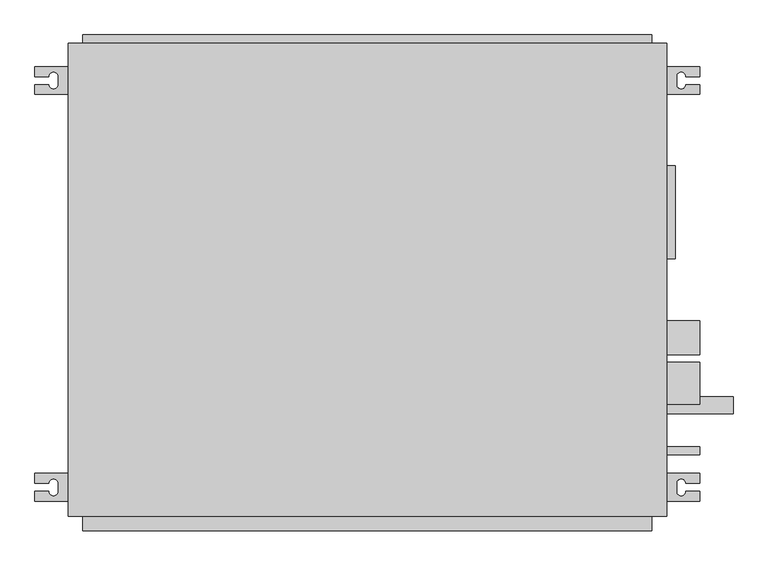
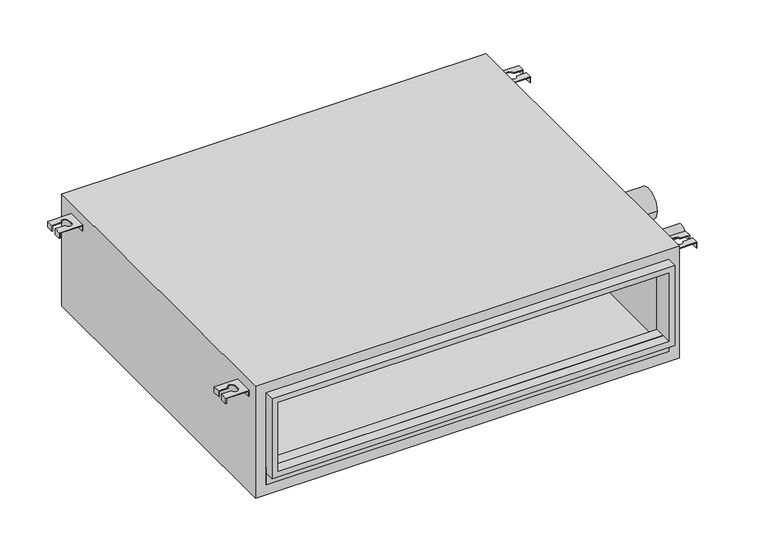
"""IFC4 building model written with IfcOpenShell, lengths in millimetres: proxy geometry, PEFY-P-NMAU-E_Medium_Static_Ducted : PEFY-P18NMAU-E."""

from ifc_helpers import new_model, si_unit, point, frame, frame_2d, origin, place, context, project, spatial, polyline, circle_curve, trimmed, segment, composite_curve, outline, extrude, source, transform, mapped, element, save
from ifc_brep_helpers import plane_surface, revolved_surface, advanced_brep


def mechanical_equipment_7e022f85(model_context):
    return source(origin(), model_context, "Body", "SolidModel", [
        advanced_brep(
        [(-510.074743, -231.05, 249.2375), (-510.074743, -246.05, 249.2375), (-489.068493, -246.05, 249.2375), (-475.068493, -246.05, 249.2375), (-475.068493, -258.05, 249.2375), (-489.068493, -258.05, 249.2375), (-510.074743, -258.05, 249.2375), (-510.074743, -273.05, 249.2375), (-460.068493, -273.05, 249.2375), (-460.068493, -231.05, 249.2375), (-510.074743, -231.05, 236.4972162), (-508.486743, -231.05, 236.4972162), (-508.486743, -246.05, 236.4972162), (-510.074743, -246.05, 236.4972162), (-508.486743, -273.05, 236.4972162), (-510.074743, -273.05, 236.4972162), (-510.074743, -258.05, 236.4972162), (-508.486743, -258.05, 236.4972162), (-460.068493, -231.05, 236.4972162), (-460.068493, -273.05, 236.4972162), (-461.656493, -273.05, 236.4972162), (-461.656493, -231.05, 236.4972162), (-508.486743, -246.05, 247.65), (-489.068493, -246.05, 247.65), (-508.486743, -231.05, 247.65), (-461.656493, -231.05, 247.65), (-508.486743, -258.05, 247.65), (-508.486743, -273.05, 247.65), (-489.068493, -258.05, 247.65), (-461.656493, -273.05, 247.65), (-475.068493, -258.05, 247.65), (-475.068493, -246.05, 247.65)],
        [
            (0, 1),
            (1, 2),
            (2, 3, circle_curve(frame((-482.068493, -246.05, 249.2375), z_axis=(0.0, 0.0, -1.0), x_axis=(1.0, 0.0, 0.0)), 7.0)),
            (3, 4),
            (4, 5, circle_curve(frame((-482.068493, -258.05, 249.2375), z_axis=(0.0, 0.0, -1.0), x_axis=(1.0, 0.0, 0.0)), 7.0)),
            (5, 6),
            (6, 7),
            (7, 8),
            (8, 9),
            (9, 0),
            (10, 11),
            (11, 12),
            (12, 13),
            (13, 10),
            (14, 15),
            (15, 16),
            (16, 17),
            (17, 14),
            (18, 19),
            (19, 20),
            (20, 21),
            (21, 18),
            (13, 1),
            (0, 10),
            (12, 22),
            (22, 23),
            (23, 2),
            (11, 24),
            (24, 22),
            (9, 18),
            (21, 25),
            (25, 24),
            (17, 26),
            (26, 27),
            (27, 14),
            (5, 28),
            (28, 26),
            (16, 6),
            (15, 7),
            (27, 29),
            (29, 20),
            (19, 8),
            (29, 25),
            (30, 31),
            (31, 23, circle_curve(frame((-482.068493, -246.05, 247.65), z_axis=(0.0, 0.0, 1.0), x_axis=(1.0, 0.0, 0.0)), 7.0)),
            (28, 30, circle_curve(frame((-482.068493, -258.05, 247.65), z_axis=(0.0, 0.0, 1.0), x_axis=(1.0, 0.0, 0.0)), 7.0)),
            (4, 30),
            (31, 3),
        ],
        [
            plane_surface(frame((-510.074743, -231.05, 249.2375), z_axis=(0.0, 0.0, 1.0), x_axis=(0.0, -1.0, 0.0))),
            plane_surface(frame((-510.074743, -231.05, 236.4972162), z_axis=(0.0, 0.0, -1.0), x_axis=(0.0, 1.0, 0.0))),
            plane_surface(frame((-510.074743, -231.05, 249.2375), z_axis=(-1.0, 0.0, 0.0), x_axis=(0.0, 0.0, -1.0))),
            plane_surface(frame((-510.074743, -246.05, 249.2375), z_axis=(0.0, -1.0, 0.0), x_axis=(0.0, 0.0, -1.0))),
            plane_surface(frame((-508.486743, -246.05, 249.2375), z_axis=(1.0, 0.0, 0.0), x_axis=(0.0, 0.0, -1.0))),
            plane_surface(frame((-508.486743, -231.05, 249.2375), z_axis=(0.0, 1.0, 0.0), x_axis=(0.0, 0.0, -1.0))),
            plane_surface(frame((-508.486743, -273.05, 249.2375), z_axis=(1.0, 0.0, 0.0), x_axis=(0.0, 0.0, -1.0))),
            plane_surface(frame((-508.486743, -258.05, 249.2375), z_axis=(0.0, 1.0, 0.0), x_axis=(0.0, 0.0, -1.0))),
            plane_surface(frame((-510.074743, -258.05, 249.2375), z_axis=(-1.0, 0.0, 0.0), x_axis=(0.0, 0.0, -1.0))),
            plane_surface(frame((-510.074743, -273.05, 249.2375), z_axis=(0.0, -1.0, 0.0), x_axis=(0.0, 0.0, -1.0))),
            plane_surface(frame((-461.656493, -231.05, 249.2375), z_axis=(-1.0, 0.0, 0.0), x_axis=(0.0, 0.0, -1.0))),
            plane_surface(frame((-460.068493, -273.05, 249.2375), z_axis=(1.0, 0.0, 0.0), x_axis=(0.0, 0.0, -1.0))),
            plane_surface(frame((-475.068493, -258.05, 247.65), z_axis=(0.0, 0.0, -1.0), x_axis=(0.0, 1.0, 0.0))),
            revolved_surface(polyline([(-475.068493, -258.05, 247.65), (-475.068493, -258.05, 249.2375)]), (-482.068493, -258.05, 247.65), (0.0, 0.0, -1.0)),
            revolved_surface(polyline([(-475.068493, -246.05, 247.65), (-475.068493, -246.05, 249.2375)]), (-482.068493, -246.05, 247.65), (0.0, 0.0, -1.0)),
            plane_surface(frame((-475.068493, -246.05, 249.2375), z_axis=(-1.0, 0.0, 0.0), x_axis=(0.0, 0.0, -1.0))),
        ],
        [
            (0, [[1, 2, 3, 4, 5, 6, 7, 8, 9, 10]]),
            (1, [[11, 12, 13, 14]]),
            (1, [[15, 16, 17, 18]]),
            (1, [[19, 20, 21, 22]]),
            (2, [[23, -1, 24, -14]]),
            (3, [[-2, -23, -13, 25, 26, 27]]),
            (4, [[-12, 28, 29, -25]]),
            (5, [[-10, 30, -22, 31, 32, -28, -11, -24]]),
            (6, [[-18, 33, 34, 35]]),
            (7, [[-6, 36, 37, -33, -17, 38]]),
            (8, [[39, -7, -38, -16]]),
            (9, [[-8, -39, -15, -35, 40, 41, -20, 42]]),
            (10, [[-21, -41, 43, -31]]),
            (11, [[-30, -9, -42, -19]]),
            (12, [[44, 45, -26, -29, -32, -43, -40, -34, -37, 46]]),
            (13, [[-5, 47, -46, -36]]),
            (14, [[-3, -27, -45, 48]]),
            (15, [[-4, -48, -44, -47]]),
        ],
    ),
        advanced_brep(
        [(490.050257, -231.05, 249.2375), (440.044007, -231.05, 249.2375), (440.044007, -273.05, 249.2375), (490.050257, -273.05, 249.2375), (490.050257, -258.05, 249.2375), (469.044007, -258.05, 249.2375), (455.044007, -258.05, 249.2375), (455.044007, -246.05, 249.2375), (469.044007, -246.05, 249.2375), (490.050257, -246.05, 249.2375), (490.050257, -231.05, 236.4972162), (490.050257, -246.05, 236.4972162), (488.462257, -246.05, 236.4972162), (488.462257, -231.05, 236.4972162), (488.462257, -273.05, 236.4972162), (488.462257, -258.05, 236.4972162), (490.050257, -258.05, 236.4972162), (490.050257, -273.05, 236.4972162), (440.044007, -231.05, 236.4972162), (441.632007, -231.05, 236.4972162), (441.632007, -273.05, 236.4972162), (440.044007, -273.05, 236.4972162), (469.044007, -246.05, 247.65), (488.462257, -246.05, 247.65), (488.462257, -231.05, 247.65), (441.632007, -231.05, 247.65), (488.462257, -273.05, 247.65), (488.462257, -258.05, 247.65), (469.044007, -258.05, 247.65), (441.632007, -273.05, 247.65), (455.044007, -258.05, 247.65), (455.044007, -246.05, 247.65)],
        [
            (0, 1),
            (1, 2),
            (2, 3),
            (3, 4),
            (4, 5),
            (5, 6, circle_curve(frame((462.044007, -258.05, 249.2375), z_axis=(0.0, 0.0, -1.0), x_axis=(-1.0, 0.0, 0.0)), 7.0)),
            (6, 7),
            (7, 8, circle_curve(frame((462.044007, -246.05, 249.2375), z_axis=(0.0, 0.0, -1.0), x_axis=(-1.0, 0.0, 0.0)), 7.0)),
            (8, 9),
            (9, 0),
            (10, 11),
            (11, 12),
            (12, 13),
            (13, 10),
            (14, 15),
            (15, 16),
            (16, 17),
            (17, 14),
            (18, 19),
            (19, 20),
            (20, 21),
            (21, 18),
            (10, 0),
            (9, 11),
            (8, 22),
            (22, 23),
            (23, 12),
            (23, 24),
            (24, 13),
            (24, 25),
            (25, 19),
            (18, 1),
            (14, 26),
            (26, 27),
            (27, 15),
            (4, 16),
            (27, 28),
            (28, 5),
            (3, 17),
            (2, 21),
            (20, 29),
            (29, 26),
            (25, 29),
            (30, 28, circle_curve(frame((462.044007, -258.05, 247.65), z_axis=(0.0, 0.0, 1.0), x_axis=(-1.0, 0.0, 0.0)), 7.0)),
            (22, 31, circle_curve(frame((462.044007, -246.05, 247.65), z_axis=(0.0, 0.0, 1.0), x_axis=(-1.0, 0.0, 0.0)), 7.0)),
            (31, 30),
            (30, 6),
            (7, 31),
        ],
        [
            plane_surface(frame((490.050257, -231.05, 249.2375), z_axis=(0.0, 0.0, 1.0), x_axis=(0.0, -1.0, 0.0))),
            plane_surface(frame((490.050257, -231.05, 236.4972162), z_axis=(0.0, 0.0, -1.0), x_axis=(0.0, 1.0, 0.0))),
            plane_surface(frame((490.050257, -231.05, 249.2375), z_axis=(1.0, 0.0, 0.0), x_axis=(0.0, 0.0, -1.0))),
            plane_surface(frame((490.050257, -246.05, 249.2375), z_axis=(0.0, -1.0, 0.0), x_axis=(0.0, 0.0, -1.0))),
            plane_surface(frame((488.462257, -246.05, 249.2375), z_axis=(-1.0, 0.0, 0.0), x_axis=(0.0, 0.0, -1.0))),
            plane_surface(frame((488.462257, -231.05, 249.2375), z_axis=(0.0, 1.0, 0.0), x_axis=(0.0, 0.0, -1.0))),
            plane_surface(frame((488.462257, -273.05, 249.2375), z_axis=(-1.0, 0.0, 0.0), x_axis=(0.0, 0.0, -1.0))),
            plane_surface(frame((488.462257, -258.05, 249.2375), z_axis=(0.0, 1.0, 0.0), x_axis=(0.0, 0.0, -1.0))),
            plane_surface(frame((490.050257, -258.05, 249.2375), z_axis=(1.0, 0.0, 0.0), x_axis=(0.0, 0.0, -1.0))),
            plane_surface(frame((490.050257, -273.05, 249.2375), z_axis=(0.0, -1.0, 0.0), x_axis=(0.0, 0.0, -1.0))),
            plane_surface(frame((441.632007, -231.05, 249.2375), z_axis=(1.0, 0.0, 0.0), x_axis=(0.0, 0.0, -1.0))),
            plane_surface(frame((440.044007, -273.05, 249.2375), z_axis=(-1.0, 0.0, 0.0), x_axis=(0.0, 0.0, -1.0))),
            plane_surface(frame((455.044007, -258.05, 247.65), z_axis=(0.0, 0.0, -1.0), x_axis=(0.0, 1.0, 0.0))),
            revolved_surface(polyline([(455.044007, -258.05, 247.65), (455.044007, -258.05, 249.2375)]), (462.044007, -258.05, 247.65), (0.0, 0.0, -1.0)),
            revolved_surface(polyline([(455.044007, -246.05, 247.65), (455.044007, -246.05, 249.2375)]), (462.044007, -246.05, 247.65), (0.0, 0.0, -1.0)),
            plane_surface(frame((455.044007, -246.05, 249.2375), z_axis=(1.0, 0.0, 0.0), x_axis=(0.0, 0.0, -1.0))),
        ],
        [
            (0, [[1, 2, 3, 4, 5, 6, 7, 8, 9, 10]]),
            (1, [[11, 12, 13, 14]]),
            (1, [[15, 16, 17, 18]]),
            (1, [[19, 20, 21, 22]]),
            (2, [[-11, 23, -10, 24]]),
            (3, [[25, 26, 27, -12, -24, -9]]),
            (4, [[-27, 28, 29, -13]]),
            (5, [[-23, -14, -29, 30, 31, -19, 32, -1]]),
            (6, [[33, 34, 35, -15]]),
            (7, [[36, -16, -35, 37, 38, -5]]),
            (8, [[-17, -36, -4, 39]]),
            (9, [[40, -21, 41, 42, -33, -18, -39, -3]]),
            (10, [[-31, 43, -41, -20]]),
            (11, [[-22, -40, -2, -32]]),
            (12, [[44, -37, -34, -42, -43, -30, -28, -26, 45, 46]]),
            (13, [[-38, -44, 47, -6]]),
            (14, [[48, -45, -25, -8]]),
            (15, [[-47, -46, -48, -7]]),
        ],
    ),
        advanced_brep(
        [(-510.074743, 339.0, 249.2375), (-460.068493, 339.0, 249.2375), (-460.068493, 381.0, 249.2375), (-510.074743, 381.0, 249.2375), (-510.074743, 366.0, 249.2375), (-489.068493, 366.0, 249.2375), (-475.068493, 366.0, 249.2375), (-475.068493, 354.0, 249.2375), (-489.068493, 354.0, 249.2375), (-510.074743, 354.0, 249.2375), (-510.074743, 339.0, 236.4972162), (-510.074743, 354.0, 236.4972162), (-508.486743, 354.0, 236.4972162), (-508.486743, 339.0, 236.4972162), (-508.486743, 381.0, 236.4972162), (-508.486743, 366.0, 236.4972162), (-510.074743, 366.0, 236.4972162), (-510.074743, 381.0, 236.4972162), (-460.068493, 339.0, 236.4972162), (-461.656493, 339.0, 236.4972162), (-461.656493, 381.0, 236.4972162), (-460.068493, 381.0, 236.4972162), (-489.068493, 354.0, 247.65), (-508.486743, 354.0, 247.65), (-508.486743, 339.0, 247.65), (-461.656493, 339.0, 247.65), (-508.486743, 381.0, 247.65), (-508.486743, 366.0, 247.65), (-489.068493, 366.0, 247.65), (-461.656493, 381.0, 247.65), (-475.068493, 366.0, 247.65), (-475.068493, 354.0, 247.65)],
        [
            (0, 1),
            (1, 2),
            (2, 3),
            (3, 4),
            (4, 5),
            (5, 6, circle_curve(frame((-482.068493, 366.0, 249.2375), z_axis=(0.0, 0.0, -1.0), x_axis=(1.0, 0.0, 0.0)), 7.0)),
            (6, 7),
            (7, 8, circle_curve(frame((-482.068493, 354.0, 249.2375), z_axis=(0.0, 0.0, -1.0), x_axis=(1.0, 0.0, 0.0)), 7.0)),
            (8, 9),
            (9, 0),
            (10, 11),
            (11, 12),
            (12, 13),
            (13, 10),
            (14, 15),
            (15, 16),
            (16, 17),
            (17, 14),
            (18, 19),
            (19, 20),
            (20, 21),
            (21, 18),
            (10, 0),
            (9, 11),
            (8, 22),
            (22, 23),
            (23, 12),
            (23, 24),
            (24, 13),
            (24, 25),
            (25, 19),
            (18, 1),
            (14, 26),
            (26, 27),
            (27, 15),
            (4, 16),
            (27, 28),
            (28, 5),
            (3, 17),
            (2, 21),
            (20, 29),
            (29, 26),
            (25, 29),
            (30, 28, circle_curve(frame((-482.068493, 366.0, 247.65), z_axis=(0.0, 0.0, 1.0), x_axis=(1.0, 0.0, 0.0)), 7.0)),
            (22, 31, circle_curve(frame((-482.068493, 354.0, 247.65), z_axis=(0.0, 0.0, 1.0), x_axis=(1.0, 0.0, 0.0)), 7.0)),
            (31, 30),
            (30, 6),
            (7, 31),
        ],
        [
            plane_surface(frame((-510.074743, 339.0, 249.2375), z_axis=(0.0, 0.0, 1.0), x_axis=(0.0, 1.0, 0.0))),
            plane_surface(frame((-510.074743, 339.0, 236.4972162), z_axis=(0.0, 0.0, -1.0), x_axis=(0.0, -1.0, 0.0))),
            plane_surface(frame((-510.074743, 339.0, 249.2375), z_axis=(-1.0, 0.0, 0.0), x_axis=(0.0, 0.0, -1.0))),
            plane_surface(frame((-510.074743, 354.0, 249.2375), z_axis=(0.0, 1.0, 0.0), x_axis=(0.0, 0.0, -1.0))),
            plane_surface(frame((-508.486743, 354.0, 249.2375), z_axis=(1.0, 0.0, 0.0), x_axis=(0.0, 0.0, -1.0))),
            plane_surface(frame((-508.486743, 339.0, 249.2375), z_axis=(0.0, -1.0, 0.0), x_axis=(0.0, 0.0, -1.0))),
            plane_surface(frame((-508.486743, 381.0, 249.2375), z_axis=(1.0, 0.0, 0.0), x_axis=(0.0, 0.0, -1.0))),
            plane_surface(frame((-508.486743, 366.0, 249.2375), z_axis=(0.0, -1.0, 0.0), x_axis=(0.0, 0.0, -1.0))),
            plane_surface(frame((-510.074743, 366.0, 249.2375), z_axis=(-1.0, 0.0, 0.0), x_axis=(0.0, 0.0, -1.0))),
            plane_surface(frame((-510.074743, 381.0, 249.2375), z_axis=(0.0, 1.0, 0.0), x_axis=(0.0, 0.0, -1.0))),
            plane_surface(frame((-461.656493, 339.0, 249.2375), z_axis=(-1.0, 0.0, 0.0), x_axis=(0.0, 0.0, -1.0))),
            plane_surface(frame((-460.068493, 381.0, 249.2375), z_axis=(1.0, 0.0, 0.0), x_axis=(0.0, 0.0, -1.0))),
            plane_surface(frame((-475.068493, 366.0, 247.65), z_axis=(0.0, 0.0, -1.0), x_axis=(0.0, -1.0, 0.0))),
            revolved_surface(polyline([(-475.068493, 366.0, 247.65), (-475.068493, 366.0, 249.2375)]), (-482.068493, 366.0, 247.65), (0.0, 0.0, -1.0)),
            revolved_surface(polyline([(-475.068493, 354.0, 247.65), (-475.068493, 354.0, 249.2375)]), (-482.068493, 354.0, 247.65), (0.0, 0.0, -1.0)),
            plane_surface(frame((-475.068493, 354.0, 249.2375), z_axis=(-1.0, 0.0, 0.0), x_axis=(0.0, 0.0, -1.0))),
        ],
        [
            (0, [[1, 2, 3, 4, 5, 6, 7, 8, 9, 10]]),
            (1, [[11, 12, 13, 14]]),
            (1, [[15, 16, 17, 18]]),
            (1, [[19, 20, 21, 22]]),
            (2, [[-11, 23, -10, 24]]),
            (3, [[25, 26, 27, -12, -24, -9]]),
            (4, [[-27, 28, 29, -13]]),
            (5, [[-23, -14, -29, 30, 31, -19, 32, -1]]),
            (6, [[33, 34, 35, -15]]),
            (7, [[36, -16, -35, 37, 38, -5]]),
            (8, [[-17, -36, -4, 39]]),
            (9, [[40, -21, 41, 42, -33, -18, -39, -3]]),
            (10, [[-31, 43, -41, -20]]),
            (11, [[-22, -40, -2, -32]]),
            (12, [[44, -37, -34, -42, -43, -30, -28, -26, 45, 46]]),
            (13, [[-38, -44, 47, -6]]),
            (14, [[48, -45, -25, -8]]),
            (15, [[-47, -46, -48, -7]]),
        ],
    ),
        advanced_brep(
        [(490.050257, 339.0, 249.2375), (490.050257, 354.0, 249.2375), (469.044007, 354.0, 249.2375), (455.044007, 354.0, 249.2375), (455.044007, 366.0, 249.2375), (469.044007, 366.0, 249.2375), (490.050257, 366.0, 249.2375), (490.050257, 381.0, 249.2375), (440.044007, 381.0, 249.2375), (440.044007, 339.0, 249.2375), (490.050257, 339.0, 236.4972162), (488.462257, 339.0, 236.4972162), (488.462257, 354.0, 236.4972162), (490.050257, 354.0, 236.4972162), (488.462257, 381.0, 236.4972162), (490.050257, 381.0, 236.4972162), (490.050257, 366.0, 236.4972162), (488.462257, 366.0, 236.4972162), (440.044007, 339.0, 236.4972162), (440.044007, 381.0, 236.4972162), (441.632007, 381.0, 236.4972162), (441.632007, 339.0, 236.4972162), (488.462257, 354.0, 247.65), (469.044007, 354.0, 247.65), (488.462257, 339.0, 247.65), (441.632007, 339.0, 247.65), (488.462257, 366.0, 247.65), (488.462257, 381.0, 247.65), (469.044007, 366.0, 247.65), (441.632007, 381.0, 247.65), (455.044007, 366.0, 247.65), (455.044007, 354.0, 247.65)],
        [
            (0, 1),
            (1, 2),
            (2, 3, circle_curve(frame((462.044007, 354.0, 249.2375), z_axis=(0.0, 0.0, -1.0), x_axis=(-1.0, 0.0, 0.0)), 7.0)),
            (3, 4),
            (4, 5, circle_curve(frame((462.044007, 366.0, 249.2375), z_axis=(0.0, 0.0, -1.0), x_axis=(-1.0, 0.0, 0.0)), 7.0)),
            (5, 6),
            (6, 7),
            (7, 8),
            (8, 9),
            (9, 0),
            (10, 11),
            (11, 12),
            (12, 13),
            (13, 10),
            (14, 15),
            (15, 16),
            (16, 17),
            (17, 14),
            (18, 19),
            (19, 20),
            (20, 21),
            (21, 18),
            (13, 1),
            (0, 10),
            (12, 22),
            (22, 23),
            (23, 2),
            (11, 24),
            (24, 22),
            (9, 18),
            (21, 25),
            (25, 24),
            (17, 26),
            (26, 27),
            (27, 14),
            (5, 28),
            (28, 26),
            (16, 6),
            (15, 7),
            (27, 29),
            (29, 20),
            (19, 8),
            (29, 25),
            (30, 31),
            (31, 23, circle_curve(frame((462.044007, 354.0, 247.65), z_axis=(0.0, 0.0, 1.0), x_axis=(-1.0, 0.0, 0.0)), 7.0)),
            (28, 30, circle_curve(frame((462.044007, 366.0, 247.65), z_axis=(0.0, 0.0, 1.0), x_axis=(-1.0, 0.0, 0.0)), 7.0)),
            (4, 30),
            (31, 3),
        ],
        [
            plane_surface(frame((490.050257, 339.0, 249.2375), z_axis=(0.0, 0.0, 1.0), x_axis=(0.0, 1.0, 0.0))),
            plane_surface(frame((490.050257, 339.0, 236.4972162), z_axis=(0.0, 0.0, -1.0), x_axis=(0.0, -1.0, 0.0))),
            plane_surface(frame((490.050257, 339.0, 249.2375), z_axis=(1.0, 0.0, 0.0), x_axis=(0.0, 0.0, -1.0))),
            plane_surface(frame((490.050257, 354.0, 249.2375), z_axis=(0.0, 1.0, 0.0), x_axis=(0.0, 0.0, -1.0))),
            plane_surface(frame((488.462257, 354.0, 249.2375), z_axis=(-1.0, 0.0, 0.0), x_axis=(0.0, 0.0, -1.0))),
            plane_surface(frame((488.462257, 339.0, 249.2375), z_axis=(0.0, -1.0, 0.0), x_axis=(0.0, 0.0, -1.0))),
            plane_surface(frame((488.462257, 381.0, 249.2375), z_axis=(-1.0, 0.0, 0.0), x_axis=(0.0, 0.0, -1.0))),
            plane_surface(frame((488.462257, 366.0, 249.2375), z_axis=(0.0, -1.0, 0.0), x_axis=(0.0, 0.0, -1.0))),
            plane_surface(frame((490.050257, 366.0, 249.2375), z_axis=(1.0, 0.0, 0.0), x_axis=(0.0, 0.0, -1.0))),
            plane_surface(frame((490.050257, 381.0, 249.2375), z_axis=(0.0, 1.0, 0.0), x_axis=(0.0, 0.0, -1.0))),
            plane_surface(frame((441.632007, 339.0, 249.2375), z_axis=(1.0, 0.0, 0.0), x_axis=(0.0, 0.0, -1.0))),
            plane_surface(frame((440.044007, 381.0, 249.2375), z_axis=(-1.0, 0.0, 0.0), x_axis=(0.0, 0.0, -1.0))),
            plane_surface(frame((455.044007, 366.0, 247.65), z_axis=(0.0, 0.0, -1.0), x_axis=(0.0, -1.0, 0.0))),
            revolved_surface(polyline([(455.044007, 366.0, 247.65), (455.044007, 366.0, 249.2375)]), (462.044007, 366.0, 247.65), (0.0, 0.0, -1.0)),
            revolved_surface(polyline([(455.044007, 354.0, 247.65), (455.044007, 354.0, 249.2375)]), (462.044007, 354.0, 247.65), (0.0, 0.0, -1.0)),
            plane_surface(frame((455.044007, 354.0, 249.2375), z_axis=(1.0, 0.0, 0.0), x_axis=(0.0, 0.0, -1.0))),
        ],
        [
            (0, [[1, 2, 3, 4, 5, 6, 7, 8, 9, 10]]),
            (1, [[11, 12, 13, 14]]),
            (1, [[15, 16, 17, 18]]),
            (1, [[19, 20, 21, 22]]),
            (2, [[23, -1, 24, -14]]),
            (3, [[-2, -23, -13, 25, 26, 27]]),
            (4, [[-12, 28, 29, -25]]),
            (5, [[-10, 30, -22, 31, 32, -28, -11, -24]]),
            (6, [[-18, 33, 34, 35]]),
            (7, [[-6, 36, 37, -33, -17, 38]]),
            (8, [[39, -7, -38, -16]]),
            (9, [[-8, -39, -15, -35, 40, 41, -20, 42]]),
            (10, [[-21, -41, 43, -31]]),
            (11, [[-30, -9, -42, -19]]),
            (12, [[44, 45, -26, -29, -32, -43, -40, -34, -37, 46]]),
            (13, [[-5, 47, -46, -36]]),
            (14, [[-3, -27, -45, 48]]),
            (15, [[-4, -48, -44, -47]]),
        ],
    ),
        extrude(outline(polyline([(417.819007, -295.275), (-437.843493, -295.275), (-437.843493, -273.05), (417.819007, -273.05), (417.819007, -295.275)])), frame((0.0, 0.0, 42.8625), z_axis=(0.0, 0.0, 1.0), x_axis=(1.0, 0.0, 0.0)), (0.0, 0.0, 1.0), 39.6875),
        extrude(outline(polyline([(249.2375, 417.819007), (249.2375, -437.843493), (69.85, -437.843493), (69.85, 417.819007), (249.2375, 417.819007)]), holes=[polyline([(82.55, 405.119007), (82.55, -425.143493), (236.5375, -425.143493), (236.5375, 405.119007), (82.55, 405.119007)])]), frame((0.0, -317.5, 0.0), z_axis=(0.0, 1.0, 0.0), x_axis=(0.0, 0.0, 1.0)), (0.0, 0.0, 1.0), 44.45),
        extrude(outline(polyline([(417.819007, 415.925), (-437.843493, 415.925), (-437.843493, 428.625), (417.819007, 428.625), (417.819007, 415.925)])), frame((0.0, 0.0, 42.8625), z_axis=(0.0, 0.0, 1.0), x_axis=(1.0, 0.0, 0.0)), (0.0, 0.0, 1.0), 206.375),
        extrude(outline(polyline([(271.4625, 440.044007), (271.4625, -460.068493), (20.6375, -460.068493), (20.6375, 440.044007), (271.4625, 440.044007)]), holes=[polyline([(42.8625, -437.843493), (249.2375, -437.843493), (249.2375, 417.819007), (42.8625, 417.819007), (42.8625, -437.843493)])]), frame((0.0, -295.275, 0.0), z_axis=(0.0, 1.0, 0.0), x_axis=(0.0, 0.0, 1.0)), (0.0, 0.0, 1.0), 711.2),
        extrude(outline(composite_curve([segment(trimmed(circle_curve(frame_2d((-26.9875, 109.5375)), 25.4), [point((-1.5875, 109.5375))], [point((-52.3875, 109.5375))], False, "CARTESIAN"), True, "CONTINUOUS"), segment(trimmed(circle_curve(frame_2d((-26.9875, 109.5375)), 25.4), [point((-52.3875, 109.5375))], [point((-1.5875, 109.5375))], False, "CARTESIAN"), True, "CONTINUOUS")], self_intersect=False)), frame((440.044007, 0.0, 0.0), z_axis=(1.0, 0.0, 0.0), x_axis=(0.0, 1.0, 0.0)), (0.0, 0.0, 1.0), 50.00625),
        extrude(outline(composite_curve([segment(trimmed(circle_curve(frame_2d((-128.5875, 171.45)), 12.7), [point((-115.8875, 171.45))], [point((-141.2875, 171.45))], False, "CARTESIAN"), True, "CONTINUOUS"), segment(trimmed(circle_curve(frame_2d((-128.5875, 171.45)), 12.7), [point((-141.2875, 171.45))], [point((-115.8875, 171.45))], False, "CARTESIAN"), True, "CONTINUOUS")], self_intersect=False)), frame((440.044007, 0.0, 0.0), z_axis=(1.0, 0.0, 0.0), x_axis=(0.0, 1.0, 0.0)), (0.0, 0.0, 1.0), 100.0125),
        extrude(outline(composite_curve([segment(trimmed(circle_curve(frame_2d((-95.25, 230.1875)), 31.75), [point((-63.5, 230.1875))], [point((-127.0, 230.1875))], False, "CARTESIAN"), True, "CONTINUOUS"), segment(trimmed(circle_curve(frame_2d((-95.25, 230.1875)), 31.75), [point((-127.0, 230.1875))], [point((-63.5, 230.1875))], False, "CARTESIAN"), True, "CONTINUOUS")], self_intersect=False)), frame((440.044007, 0.0, 0.0), z_axis=(1.0, 0.0, 0.0), x_axis=(0.0, 1.0, 0.0)), (0.0, 0.0, 1.0), 50.00625),
        extrude(outline(composite_curve([segment(trimmed(circle_curve(frame_2d((-196.85, 104.775)), 6.35), [point((-190.5, 104.775))], [point((-203.2, 104.775))], False, "CARTESIAN"), True, "CONTINUOUS"), segment(trimmed(circle_curve(frame_2d((-196.85, 104.775)), 6.35), [point((-203.2, 104.775))], [point((-190.5, 104.775))], False, "CARTESIAN"), True, "CONTINUOUS")], self_intersect=False)), frame((440.044007, 0.0, 0.0), z_axis=(1.0, 0.0, 0.0), x_axis=(0.0, 1.0, 0.0)), (0.0, 0.0, 1.0), 50.00625),
        extrude(outline(polyline([(452.744007, 231.84375), (452.744007, 92.14375), (440.044007, 92.14375), (440.044007, 231.84375), (452.744007, 231.84375)])), frame((0.0, 0.0, 42.8625), z_axis=(0.0, 0.0, 1.0), x_axis=(1.0, 0.0, 0.0)), (0.0, 0.0, 1.0), 187.325),
    ])


if __name__ == "__main__":
    model = new_model("IFC4")
    model_context = context("Model", 3, world=origin())
    ifc_project = project(units=[si_unit("LENGTHUNIT", "METRE", prefix="MILLI")], contexts=[model_context])
    site = spatial("IfcSite", under=ifc_project)
    building = spatial("IfcBuilding", under=site)
    placement = place(None, origin())
    mechanical_equipment_shape = mechanical_equipment_7e022f85(model_context)
    element("IfcBuildingElementProxy", 1, Name="PEFY-P-NMAU-E_Medium_Static_Ducted : PEFY-P18NMAU-E", ObjectType="PEFY-P-NMAU-E_Medium_Static_Ducted : PEFY-P18NMAU-E", at=placement, inside=building, context=model_context, shape_type="MappedRepresentation", body=[
        mapped(mechanical_equipment_shape, transform((0.0, 0.0, 0.0), x_axis=(1.0, 0.0, 0.0), y_axis=(0.0, 1.0, 0.0), z_axis=(0.0, 0.0, 1.0))),
    ])
    save(model, "model.ifc")
